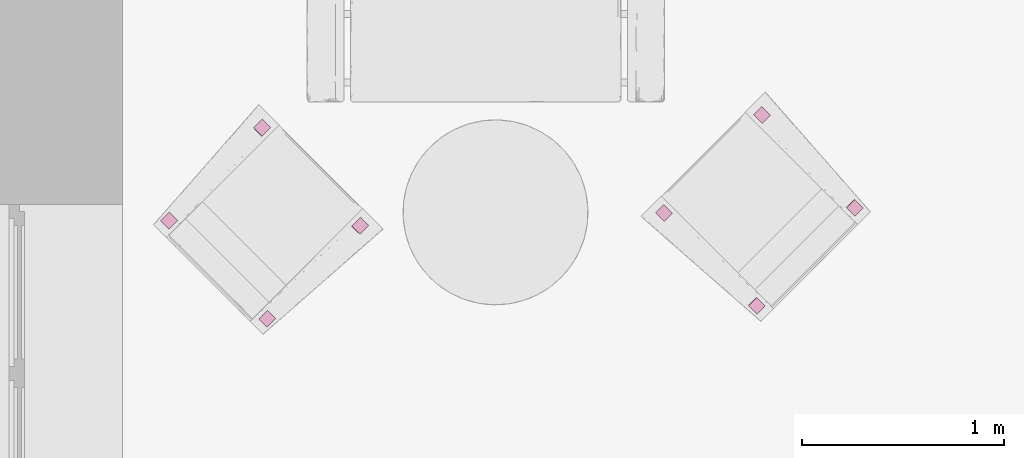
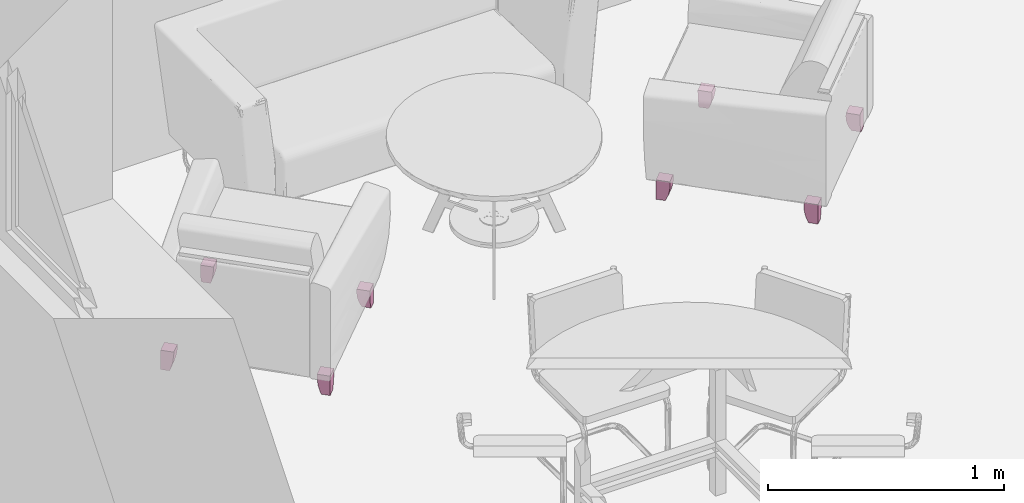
# One storey, part 16 of 19: 4 furnishings.
"""IFC2X3 building model written with IfcOpenShell, lengths in millimetres."""

from ifc_helpers import new_model, entity, si_unit, converted_unit, derived_unit, direction, frame, origin, place, context, subcontext, project, spatial, faceted_brep, source, transform, mapped, material, type_object, type_shapes, element, save


model = new_model("IFC2X3")

# Units and contexts
model_context = context("Model", 3, precision=0.01, world=origin(), true_north=direction((6.12303176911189e-17, 1.0)))
context_of_model = context(None, 3, precision=0.01, world=origin(), true_north=direction((6.12303176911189e-17, 1.0)))
body_context = subcontext(model_context, "Body", "Model", "MODEL_VIEW")
ifc_project = project(units=[si_unit("LENGTHUNIT", "METRE", prefix="MILLI"), si_unit("AREAUNIT", "SQUARE_METRE"), si_unit("VOLUMEUNIT", "CUBIC_METRE"), converted_unit("PLANEANGLEUNIT", "DEGREE", entity("IfcRatioMeasure", 0.0174532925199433), si_unit("PLANEANGLEUNIT", "RADIAN"), dimensions=[0, 0, 0, 0, 0, 0, 0]), si_unit("MASSUNIT", "GRAM", prefix="KILO"), derived_unit("MASSDENSITYUNIT", [(si_unit("MASSUNIT", "GRAM", prefix="KILO"), 1), (si_unit("LENGTHUNIT", "METRE"), -3)]), si_unit("TIMEUNIT", "SECOND"), si_unit("FREQUENCYUNIT", "HERTZ"), si_unit("THERMODYNAMICTEMPERATUREUNIT", "DEGREE_CELSIUS"), derived_unit("THERMALTRANSMITTANCEUNIT", [(si_unit("MASSUNIT", "GRAM", prefix="KILO"), 1), (si_unit("THERMODYNAMICTEMPERATUREUNIT", "KELVIN"), -1), (si_unit("TIMEUNIT", "SECOND"), -3)]), derived_unit("VOLUMETRICFLOWRATEUNIT", [(si_unit("LENGTHUNIT", "METRE"), 3), (si_unit("TIMEUNIT", "SECOND"), -1)]), si_unit("ELECTRICCURRENTUNIT", "AMPERE"), si_unit("ELECTRICVOLTAGEUNIT", "VOLT"), si_unit("POWERUNIT", "WATT"), si_unit("FORCEUNIT", "NEWTON", prefix="KILO"), si_unit("ILLUMINANCEUNIT", "LUX"), si_unit("LUMINOUSFLUXUNIT", "LUMEN"), si_unit("LUMINOUSINTENSITYUNIT", "CANDELA"), derived_unit("USERDEFINED", [(si_unit("MASSUNIT", "GRAM", prefix="KILO"), -1), (si_unit("LENGTHUNIT", "METRE"), -2), (si_unit("TIMEUNIT", "SECOND"), 3), (si_unit("LUMINOUSFLUXUNIT", "LUMEN"), 1)]), derived_unit("LINEARVELOCITYUNIT", [(si_unit("LENGTHUNIT", "METRE"), 1), (si_unit("TIMEUNIT", "SECOND"), -1)]), si_unit("PRESSUREUNIT", "PASCAL"), derived_unit("USERDEFINED", [(si_unit("LENGTHUNIT", "METRE"), -2), (si_unit("MASSUNIT", "GRAM", prefix="KILO"), 1), (si_unit("TIMEUNIT", "SECOND"), -2)])], contexts=[model_context, context_of_model])

# Site, building, storey, space
site_placement = place(None, frame((121442.264707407, 135347.995453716, -1800.0)))
site = spatial("IfcSite", under=ifc_project, at=site_placement, Name="Surface", CompositionType="ELEMENT")
building_placement = place(site_placement, origin())
building = spatial("IfcBuilding", under=site, at=building_placement, CompositionType="ELEMENT")
storey_placement = place(building_placement, frame((0.0, 0.0, 5125.0)))
storey = spatial("IfcBuildingStorey", under=building, at=storey_placement, Name="2 korrus", CompositionType="ELEMENT", Elevation=5125.00000000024)
space_placement = place(storey_placement, origin())
space = spatial("IfcSpace", under=storey, at=space_placement, Name="225", CompositionType="ELEMENT", InteriorOrExteriorSpace="INTERNAL")

# Furnishings
ifc_material = material(Name="Wood - Sauder® Manufacturing Co - Sample - Cherry - Stained")
furniture_type_1 = type_object("IfcFurnitureType", Name="Wood", AssemblyPlace="NOTDEFINED", material=ifc_material)
shared_shape_1 = source(origin(), body_context, "Body", "Brep", [
    faceted_brep([(-29.0, 294.031633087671, 94.4238602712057), (-29.0, 294.59999999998, 100.038208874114), (-29.0, 355.59999999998, 100.038208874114), (-29.0, 355.59999999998, 88.8526628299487), (-29.0, 293.653803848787, 88.8526628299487), (29.0, 355.59999999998, 0.0382088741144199), (29.0, 355.59999999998, 100.038208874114), (29.0, 294.599999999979, 100.038208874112), (29.0, 294.058936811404, 65.6374490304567), (29.0, 300.487423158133, 31.8383426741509), (29.0, 313.619693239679, 0.0382088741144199), (-10.8815902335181, 355.59999999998, 0.0382088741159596), (-23.9873919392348, 355.59999999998, 43.6199182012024), (-10.8815902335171, 313.61969323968, 0.0382088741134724), (-17.4978900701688, 305.072000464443, 18.5160905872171), (-22.829766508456, 298.712868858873, 38.2467497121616), (-26.6208712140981, 294.771729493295, 58.9393334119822), (-28.6812705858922, 293.431946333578, 80.1905676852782), (-28.8781200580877, 293.487384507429, 84.5216572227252)], [[[0, 1, 2, 3, 4]], [[5, 6, 7, 8, 9, 10]], [[3, 2, 6, 5, 11, 12]], [[2, 1, 7, 6]], [[10, 9, 13]], [[13, 9, 14]], [[9, 15, 14]], [[16, 15, 8]], [[15, 9, 8]], [[8, 7, 17]], [[17, 7, 18]], [[8, 17, 16]], [[18, 7, 4]], [[4, 7, 0]], [[7, 1, 0]], [[13, 11, 5, 10]], [[3, 16, 17]], [[16, 3, 12]], [[3, 18, 4]], [[18, 3, 17]], [[12, 11, 13]], [[12, 14, 15]], [[14, 12, 13]], [[12, 15, 16]]]),
    faceted_brep([(-29.0, -294.030021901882, 94.4047609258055), (-29.0, -293.653803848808, 88.8526628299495), (-29.0, -355.600000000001, 88.8526628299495), (-29.0, -355.600000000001, 100.0), (-29.0, -294.595491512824, 100.0), (29.0, -355.600000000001, 0.0), (29.0, -313.640250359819, 0.0), (29.0, -300.499358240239, 31.7983350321), (29.0, -294.062391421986, 65.5974861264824), (29.0, -294.595491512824, 100.0), (29.0, -355.600000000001, 100.0), (-23.9832739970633, -355.600000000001, 43.599736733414), (-10.86619288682, -355.600000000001, 0.0), (-28.6812705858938, -293.431946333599, 80.1905676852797), (-28.8781200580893, -293.48738450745, 84.5216572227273), (-22.8248155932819, -298.718451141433, 38.2249384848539), (-10.86619288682, -313.64025035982, 0.0), (-26.6192800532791, -294.773166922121, 58.9279817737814), (-17.4881781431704, -305.084088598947, 18.4852159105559)], [[[0, 1, 2, 3, 4]], [[5, 6, 7, 8, 9, 10]], [[3, 2, 11, 12, 5, 10]], [[4, 3, 10, 9]], [[9, 13, 14]], [[13, 9, 8]], [[9, 14, 1]], [[9, 0, 4]], [[0, 9, 1]], [[15, 8, 7]], [[16, 7, 6]], [[17, 8, 15]], [[15, 7, 18]], [[7, 16, 18]], [[8, 17, 13]], [[12, 16, 6, 5]], [[12, 11, 16]], [[11, 18, 16]], [[18, 11, 15]], [[11, 17, 15]], [[17, 2, 13]], [[2, 17, 11]], [[2, 14, 13]], [[14, 2, 1]]]),
])
type_shapes(furniture_type_1, [shared_shape_1])
for number, where, z_axis, x_axis, name in (
    (1, (-116030.375133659, -116898.720802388, 0.0382088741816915), (0.0, 0.0, 1.0), (-0.707106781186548, -0.707106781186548, 0.0), "Leg-Sauder_MFG_CO.-Rally-Wood:Wood"),
    (2, (-118476.638231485, -116477.085728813, 0.0382088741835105), (0.0, 0.0, 1.0), (-0.707106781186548, 0.707106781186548, 0.0), "Leg-Sauder_MFG_CO.-Rally-Wood:Wood"),
):
    element("IfcFurnishingElement", number, at=place(space_placement, frame(where, z_axis=z_axis, x_axis=x_axis)), inside=space, type_object=furniture_type_1, material=ifc_material, Name=name, ObjectType="Wood", context=body_context, shape_type="MappedRepresentation", body=[
        mapped(shared_shape_1, transform((0.0, 0.0, 0.0), scale=1.0)),
    ])
furniture_type_2 = type_object("IfcFurnitureType", Name="Wood", AssemblyPlace="NOTDEFINED", material=ifc_material)
shared_shape_2 = source(origin(), body_context, "Body", "Brep", [
    faceted_brep([(-29.0, -293.653803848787, 88.8526628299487), (-29.0, -355.59999999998, 88.8526628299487), (-29.0, -355.59999999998, 100.038208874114), (-29.0, -294.599999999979, 100.038208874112), (-29.0, -294.031633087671, 94.4238602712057), (29.0, -300.487423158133, 31.8383426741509), (29.0, -294.058936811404, 65.6374490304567), (29.0, -294.59999999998, 100.038208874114), (29.0, -355.59999999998, 100.038208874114), (29.0, -355.59999999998, 0.0382088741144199), (29.0, -313.61969323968, 0.0382088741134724), (-23.9873919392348, -355.59999999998, 43.6199182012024), (-10.8815902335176, -355.59999999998, 0.0382088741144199), (-10.8815902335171, -313.61969323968, 0.0382088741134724), (-17.4978900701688, -305.072000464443, 18.5160905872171), (-22.829766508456, -298.712868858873, 38.2467497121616), (-26.6208712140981, -294.771729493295, 58.9393334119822), (-28.6812705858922, -293.431946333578, 80.1905676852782), (-28.8781200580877, -293.487384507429, 84.5216572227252)], [[[0, 1, 2, 3, 4]], [[5, 6, 7, 8, 9, 10]], [[8, 2, 1, 11, 12, 9]], [[8, 7, 3, 2]], [[13, 5, 10]], [[14, 5, 13]], [[14, 15, 5]], [[6, 15, 16]], [[6, 5, 15]], [[17, 7, 6]], [[18, 7, 17]], [[16, 17, 6]], [[0, 7, 18]], [[4, 7, 0]], [[4, 3, 7]], [[9, 12, 13, 10]], [[17, 16, 1]], [[11, 1, 16]], [[0, 18, 1]], [[17, 1, 18]], [[13, 12, 11]], [[15, 14, 11]], [[13, 11, 14]], [[16, 15, 11]]]),
    faceted_brep([(-29.0, 355.600000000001, 88.8526628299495), (-29.0, 293.653803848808, 88.8526628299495), (-29.0, 294.030021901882, 94.4047609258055), (-29.0, 294.595491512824, 100.0), (-29.0, 355.600000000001, 100.0), (29.0, 355.600000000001, 0.0), (29.0, 355.600000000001, 100.0), (29.0, 294.595491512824, 100.0), (29.0, 294.062391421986, 65.5974861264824), (29.0, 300.499358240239, 31.7983350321), (29.0, 313.64025035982, 0.0), (-10.86619288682, 355.600000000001, 0.0), (-23.9832739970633, 355.600000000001, 43.599736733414), (-28.8781200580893, 293.48738450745, 84.5216572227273), (-28.6812705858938, 293.431946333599, 80.1905676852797), (-22.8248155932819, 298.718451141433, 38.2249384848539), (-10.86619288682, 313.64025035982, 0.0), (-26.6192800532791, 294.773166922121, 58.9279817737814), (-17.4881781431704, 305.084088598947, 18.4852159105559)], [[[0, 1, 2, 3, 4]], [[5, 6, 7, 8, 9, 10]], [[6, 5, 11, 12, 0, 4]], [[6, 4, 3, 7]], [[13, 14, 7]], [[8, 7, 14]], [[1, 13, 7]], [[3, 2, 7]], [[1, 7, 2]], [[9, 8, 15]], [[10, 9, 16]], [[15, 8, 17]], [[18, 9, 15]], [[18, 16, 9]], [[14, 17, 8]], [[10, 16, 11, 5]], [[16, 12, 11]], [[16, 18, 12]], [[15, 12, 18]], [[15, 17, 12]], [[14, 0, 17]], [[12, 17, 0]], [[14, 13, 0]], [[1, 0, 13]]]),
])
type_shapes(furniture_type_2, [shared_shape_2])
for number, where, z_axis, x_axis, name in (
    (3, (-115545.441303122, -116413.78697185, 0.0382088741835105), (0.0, 0.0, 1.0), (0.707106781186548, 0.707106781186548, 0.0), "Leg-Sauder_MFG_CO.-Rally-Wood:Wood"),
    (4, (-117991.704400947, -116962.019559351, 0.0382088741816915), (0.0, 0.0, 1.0), (0.707106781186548, -0.707106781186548, 0.0), "Leg-Sauder_MFG_CO.-Rally-Wood:Wood"),
):
    element("IfcFurnishingElement", number, at=place(space_placement, frame(where, z_axis=z_axis, x_axis=x_axis)), inside=space, type_object=furniture_type_2, material=ifc_material, Name=name, ObjectType="Wood", context=body_context, shape_type="MappedRepresentation", body=[
        mapped(shared_shape_2, transform((0.0, 0.0, 0.0), scale=1.0)),
    ])

save(model, "model.ifc")
